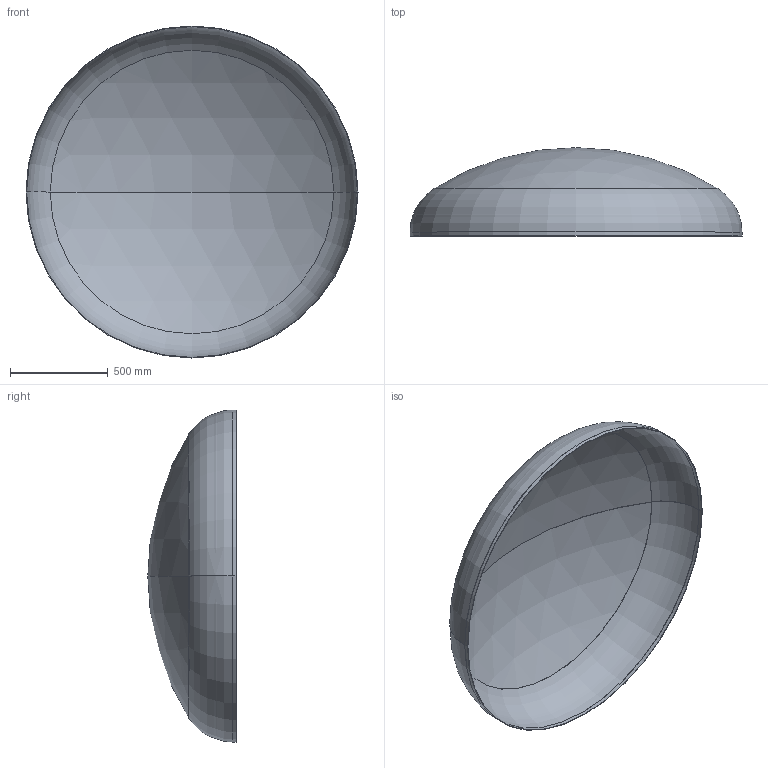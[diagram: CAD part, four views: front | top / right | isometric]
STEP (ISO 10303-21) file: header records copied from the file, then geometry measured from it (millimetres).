
FILE_DESCRIPTION (( 'STEP AP203' ), '1' );
FILE_NAME ('DIN 28013 Korbbogenform_-_Boden DIN 28013 - 1700 x 20 - I - s=3.step', '2016-07-01T11:33:56', ( '' ), ( '' ), 'SwSTEP 2.0', 'SolidWorks 2013', '' );
FILE_SCHEMA (( 'CONFIG_CONTROL_DESIGN' ));
Length unit declared in the file: millimetre
Products named in the file (1): DIN 28013 Korbbogenform_-_Boden DIN 28013 - 1700 x 20 - I - s=3
Bounding box: 1700 x 452.71 x 1700 mm (x, y, z)
Volume: 9717188.9 mm3; surface area: 6494136 mm2
Topology: 1 solids, 1 shells, 13 faces, 24 edges, 14 vertices
Faces by surface type: torus 4, cylinder 4, sphere 4, plane 1
Entity records: 407 total; most frequent: DIRECTION 72, CARTESIAN_POINT 52, ORIENTED_EDGE 48, AXIS2_PLACEMENT_3D 34, EDGE_CURVE 24, CIRCLE 20, VERTEX_POINT 14, EDGE_LOOP 14
